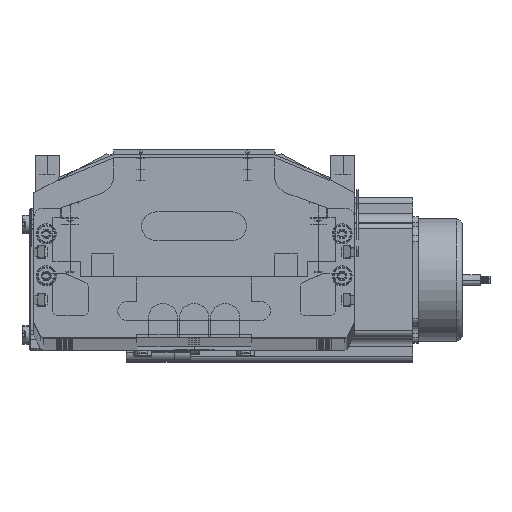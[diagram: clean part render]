
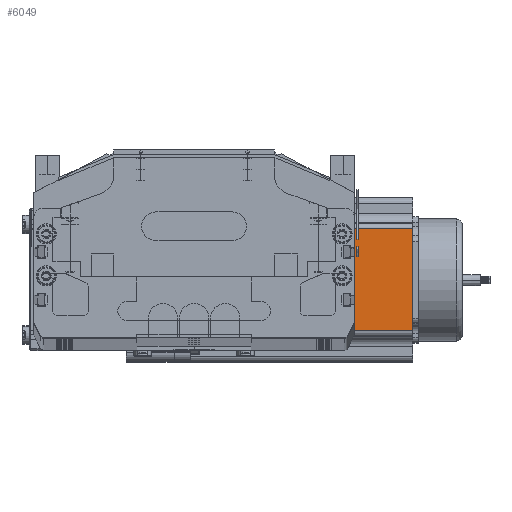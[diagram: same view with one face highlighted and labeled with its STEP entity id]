
A CAD part, top view. The second image highlights one B-rep face of the part: STEP entity #6049.
In plain terms, the highlighted planar face has unit normal (0, 0, 1) as drawn and (0, -1, 0) by its records, which use the part's own axes.
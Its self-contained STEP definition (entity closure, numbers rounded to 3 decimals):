
#5999 = VERTEX_POINT ( 'NONE', #33854 ) ;
#6005 = ORIENTED_EDGE ( 'NONE', *, *, #6098, .T. ) ;
#6007 = ORIENTED_EDGE ( 'NONE', *, *, #6145, .F. ) ;
#6049 = ADVANCED_FACE ( 'NONE', ( #34045 ), #33999, .F. ) ;
#6098 = EDGE_CURVE ( 'NONE', #5999, #6100, #22628, .T. ) ;
#6099 = EDGE_CURVE ( 'NONE', #6100, #6101, #22701, .T. ) ;
#6100 = VERTEX_POINT ( 'NONE', #22697 ) ;
#6101 = VERTEX_POINT ( 'NONE', #22695 ) ;
#6123 = ORIENTED_EDGE ( 'NONE', *, *, #6156, .T. ) ;
#6124 = EDGE_LOOP ( 'NONE', ( #6128, #6123, #6007, #6005 ) ) ;
#6128 = ORIENTED_EDGE ( 'NONE', *, *, #6099, .T. ) ;
#6135 = VERTEX_POINT ( 'NONE', #22734 ) ;
#6145 = EDGE_CURVE ( 'NONE', #5999, #6135, #22771, .T. ) ;
#6156 = EDGE_CURVE ( 'NONE', #6101, #6135, #22864, .T. ) ;
#22628 = LINE ( 'NONE', #22709, #22712 ) ;
#22690 = DIRECTION ( 'NONE',  ( 1., 0., 0. ) ) ;
#22692 = VECTOR ( 'NONE', #22690, 1000. ) ;
#22694 = CARTESIAN_POINT ( 'NONE',  ( 0., 0., 0. ) ) ;
#22695 = CARTESIAN_POINT ( 'NONE',  ( 69.74, 0., 0. ) ) ;
#22697 = CARTESIAN_POINT ( 'NONE',  ( 16.16, 0., 0. ) ) ;
#22701 = LINE ( 'NONE', #22694, #22692 ) ;
#22708 = DIRECTION ( 'NONE',  ( 0., 0., -1. ) ) ;
#22709 = CARTESIAN_POINT ( 'NONE',  ( 16.16, 0., 116.5 ) ) ;
#22712 = VECTOR ( 'NONE', #22708, 1000. ) ;
#22734 = CARTESIAN_POINT ( 'NONE',  ( 69.74, 0., 116.5 ) ) ;
#22771 = LINE ( 'NONE', #22908, #22906 ) ;
#22859 = DIRECTION ( 'NONE',  ( 0., 0., 1. ) ) ;
#22861 = VECTOR ( 'NONE', #22859, 1000. ) ;
#22862 = CARTESIAN_POINT ( 'NONE',  ( 69.74, 0., 116.5 ) ) ;
#22864 = LINE ( 'NONE', #22862, #22861 ) ;
#22905 = DIRECTION ( 'NONE',  ( 1., 0., 0. ) ) ;
#22906 = VECTOR ( 'NONE', #22905, 1000. ) ;
#22908 = CARTESIAN_POINT ( 'NONE',  ( 0., 0., 116.5 ) ) ;
#33854 = CARTESIAN_POINT ( 'NONE',  ( 16.16, 0., 116.5 ) ) ;
#33992 = DIRECTION ( 'NONE',  ( 0., 0., 1. ) ) ;
#33994 = DIRECTION ( 'NONE',  ( 0., 1., 0. ) ) ;
#33996 = CARTESIAN_POINT ( 'NONE',  ( 0., 0., 116.5 ) ) ;
#33997 = AXIS2_PLACEMENT_3D ( 'NONE', #33996, #33994, #33992 ) ;
#33999 = PLANE ( 'NONE',  #33997 ) ;
#34045 = FACE_OUTER_BOUND ( 'NONE', #6124, .T. ) ;
